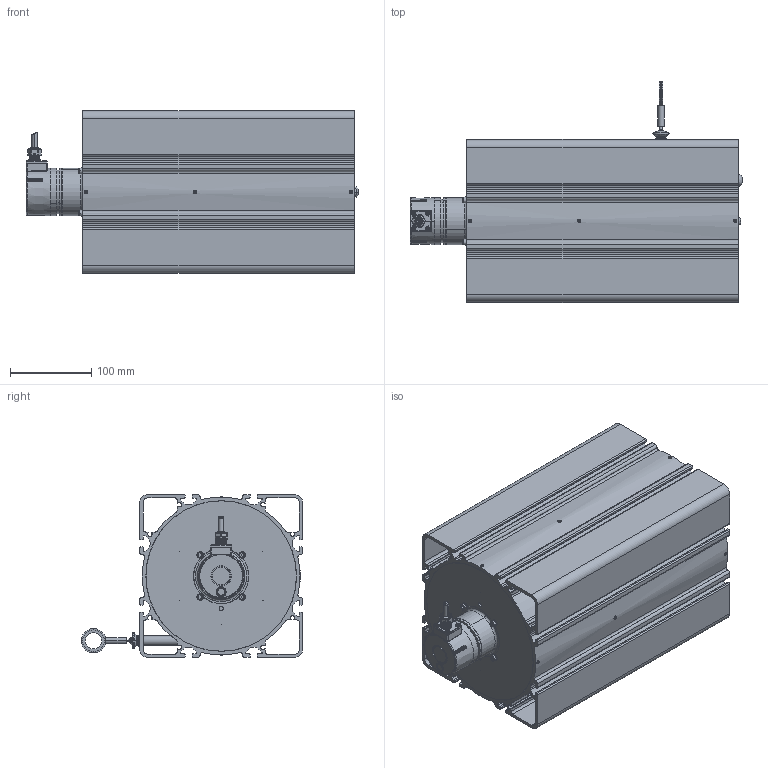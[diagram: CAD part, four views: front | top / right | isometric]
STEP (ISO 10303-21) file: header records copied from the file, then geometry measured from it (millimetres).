
FILE_DESCRIPTION((''),'2;1');
FILE_NAME('WDS-50000-P200-CR-TTL_02_ASM','2024-05-28T10:54:56',('15000597'),(''),'CREO PARAMETRIC BY PTC INC, 2022164','CREO PARAMETRIC BY PTC INC, 2022164','');
FILE_SCHEMA(('AUTOMOTIVE_DESIGN { 1 0 10303 214 1 1 1 1 }'));
Products named in the file (40): TELESO_SENZORU_50M_P200_AF0; BOCNICE_VNEJSI_P200_AF0; LOZISKO_6000_10X26X8_AF1; PREDNI_STENA_P200_DIRA_S_POJIST_AF0; SROUB_ISO7380_COC_HEX_C_M5X10_AF0; TRUBKA_PRUCHODKY_P200_AF0; PRUCHODKA_P200; GUMOVY_VLNOVEC; STIRATKO_LANKO_FORMA_0I8; DUTY_NYT_A_3X10; GP_7I5X2I0X25_EXT_EPDM60; LANKO_7X7_0I63_0I8_AF0; OKO_LANKA_TRE; CU-TRUBICKA_2X1I4X5_NEPOUZIVAT_AF0; SPOJKA_GS5_PR6_2I1_AF0; KOLIK_PRUZNY_2X8_AF0; PODLOZKA_M4_VEJIROVA_AF0; PODLOZKA_M4_VEJIROVA_AF1; PODLOZKA_M4_VEJIROVA_AF2; PODLOZKA_M4_VEJIROVA_AF3; SROUB_ISO4762_VALC_HEX_M4X6_AF0; SROUB_ISO4762_VALC_HEX_M4X6_AF1; SROUB_ISO4762_VALC_HEX_M4X6_AF2; SROUB_ISO4762_VALC_HEX_M4X6_AF3; SROUB_ISO7380_COC_HEX_M8X8_AF0; PRIRUBA_SYNCHRO_P96_P200_AF0; SPOJKA_KRIZ_AF0; SROUB_ISO4029_STAV_HEX_M4X4; SROUB_ISO4029_STAV_HEX_M4X4_AF0; SROUB_ISO4029_STAV_HEX_M4X4_AF1; SROUB_ISO4029_STAV_HEX_M4X4_AF2; SROUB_ISO4029_STAV_HEX_M4X4_AF3; SROUB_ISO4029_STAV_HEX_M4X4_AF4; SROUB_ISO4029_STAV_HEX_M4X4_AF5; SROUB_ISO4029_STAV_HEX_M4X4_AF6; SROUB_ISO4029_STAV_HEX_M4X4_AF7; SPOJKA_GS5_PR6_AF0; SROUB_ISO4029_STAV_HEX_M3X3_AF0; BAU_SYNCHRO_TTL_EIL580-SY06I5RE; WDS-50000-P200-CR-TTL_02_ASM
Assembly tree (42 placements, depth 2):
  WDS-50000-P200-CR-TTL_02_ASM
    TELESO_SENZORU_50M_P200_AF0
    BOCNICE_VNEJSI_P200_AF0
    LOZISKO_6000_10X26X8_AF1
    PREDNI_STENA_P200_DIRA_S_POJIST_AF0
    SROUB_ISO7380_COC_HEX_C_M5X10_AF0
    TRUBKA_PRUCHODKY_P200_AF0
    PRUCHODKA_P200
    GUMOVY_VLNOVEC
    STIRATKO_LANKO_FORMA_0I8
    DUTY_NYT_A_3X10
    GP_7I5X2I0X25_EXT_EPDM60
    LANKO_7X7_0I63_0I8_AF0
    OKO_LANKA_TRE
    CU-TRUBICKA_2X1I4X5_NEPOUZIVAT_AF0
    SPOJKA_GS5_PR6_2I1_AF0
    KOLIK_PRUZNY_2X8_AF0
    PODLOZKA_M4_VEJIROVA_AF0
    PODLOZKA_M4_VEJIROVA_AF1
    PODLOZKA_M4_VEJIROVA_AF2
    PODLOZKA_M4_VEJIROVA_AF3
    SROUB_ISO4762_VALC_HEX_M4X6_AF0
    SROUB_ISO4762_VALC_HEX_M4X6_AF1
    SROUB_ISO4762_VALC_HEX_M4X6_AF2
    SROUB_ISO4762_VALC_HEX_M4X6_AF3
    SROUB_ISO7380_COC_HEX_M8X8_AF0
    PRIRUBA_SYNCHRO_P96_P200_AF0
    SPOJKA_KRIZ_AF0
    SROUB_ISO4029_STAV_HEX_M4X4  x4
    SROUB_ISO4029_STAV_HEX_M4X4_AF0
    SROUB_ISO4029_STAV_HEX_M4X4_AF1
    SROUB_ISO4029_STAV_HEX_M4X4_AF2
    SROUB_ISO4029_STAV_HEX_M4X4_AF3
    SROUB_ISO4029_STAV_HEX_M4X4_AF4
    SROUB_ISO4029_STAV_HEX_M4X4_AF5
    SROUB_ISO4029_STAV_HEX_M4X4_AF6
    SROUB_ISO4029_STAV_HEX_M4X4_AF7
    SPOJKA_GS5_PR6_AF0
    SROUB_ISO4029_STAV_HEX_M3X3_AF0
    BAU_SYNCHRO_TTL_EIL580-SY06I5RE
Bounding box: 407.6 x 271.7 x 200 mm (x, y, z)
Volume: 1941050 mm3; surface area: 961584.9 mm2
Topology: 34 solids, 73 shells, 1773 faces, 4812 edges, 3110 vertices
Faces by surface type: plane 654, cylinder 638, cone 188, bspline 136, torus 108, extrusion 18, revolution 16, sphere 15
Entity records: 92967 total; most frequent: CARTESIAN_POINT 33851, ORIENTED_EDGE 9060, DIRECTION 8613, EDGE_CURVE 4620, PRESENTATION_STYLE_ASSIGNMENT 3720, STYLED_ITEM 3720, AXIS2_PLACEMENT_3D 3375, VERTEX_POINT 3029
